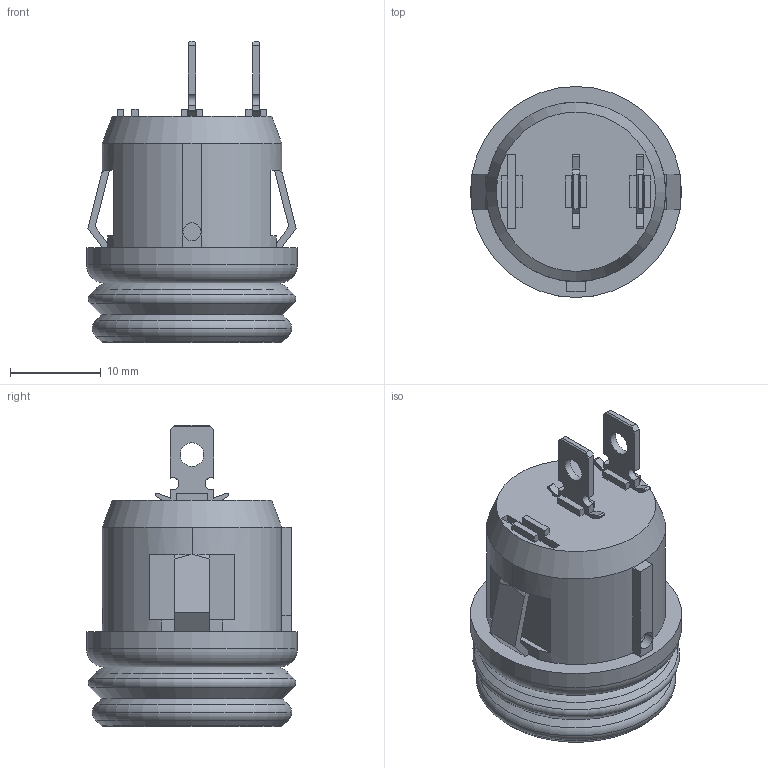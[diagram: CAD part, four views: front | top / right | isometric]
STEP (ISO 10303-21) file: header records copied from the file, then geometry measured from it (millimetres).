
FILE_DESCRIPTION(/* description */ (''),/* implementation_level */ '2;1');
FILE_NAME(/* name */ 'RA4-1B-DC-2-B.stp',/* time_stamp */ '2024-12-16T09:08:19-08:00',/* author */ ('tylerl'),/* organization */ (''),/* preprocessor_version */ 'ST-DEVELOPER v20',/* originating_system */ 'Autodesk Inventor 2025',/* authorisation */ '');
FILE_SCHEMA (('AUTOMOTIVE_DESIGN { 1 0 10303 214 3 1 1 }'));
Products named in the file (3): RA4-1B-DC-2-B; Base; Bottom
Assembly tree (2 placements, depth 2):
  RA4-1B-DC-2-B
    Base
    Bottom
Bounding box: 23.3 x 23.3 x 33.3 mm (x, y, z)
Volume: 8328.6 mm3; surface area: 3724.5 mm2
Topology: 3 solids, 3 shells, 139 faces, 370 edges, 238 vertices
Faces by surface type: plane 102, cylinder 23, torus 5, cone 5, bspline 4
Full cylindrical faces by diameter (mm): 2 x2, 2.6 x2, 19.8 x1, 22 x1, 23.3 x1
Entity records: 4597 total; most frequent: CARTESIAN_POINT 1000, ORIENTED_EDGE 732, DIRECTION 713, EDGE_CURVE 366, LINE 275, VECTOR 275, VERTEX_POINT 238, AXIS2_PLACEMENT_3D 219
